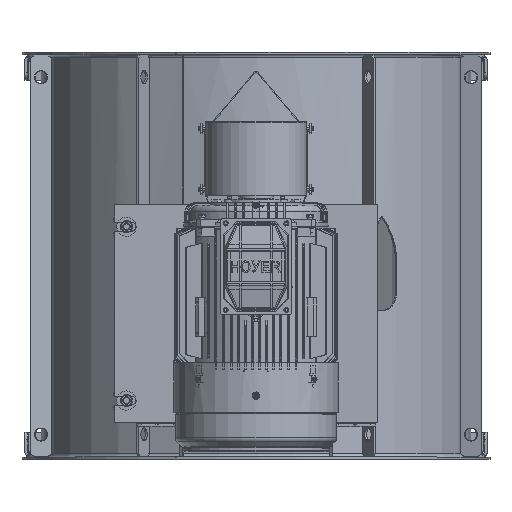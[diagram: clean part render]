
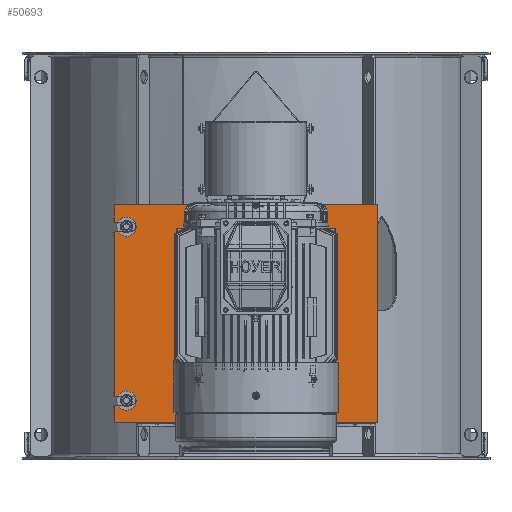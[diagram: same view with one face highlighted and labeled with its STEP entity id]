
A CAD part, top view. The second image highlights one B-rep face of the part: STEP entity #50693.
In plain terms, the highlighted planar face has unit normal (0, 0, 1) as drawn and (0, -1, 0) by its records, which use the part's own axes.
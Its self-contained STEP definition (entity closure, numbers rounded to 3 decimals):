
#1600=CIRCLE('',#53989,12.);
#1601=CIRCLE('',#53990,12.);
#1602=CIRCLE('',#53991,9.);
#1603=CIRCLE('',#53992,9.);
#1604=CIRCLE('',#53993,9.);
#1605=CIRCLE('',#53994,9.);
#1606=CIRCLE('',#53995,9.);
#1607=CIRCLE('',#53996,9.);
#1608=CIRCLE('',#53997,9.);
#1609=CIRCLE('',#53998,9.);
#6740=ORIENTED_EDGE('',*,*,#20775,.F.);
#6741=ORIENTED_EDGE('',*,*,#20776,.F.);
#6742=ORIENTED_EDGE('',*,*,#20777,.F.);
#6743=ORIENTED_EDGE('',*,*,#20778,.F.);
#6744=ORIENTED_EDGE('',*,*,#20779,.F.);
#6745=ORIENTED_EDGE('',*,*,#20780,.F.);
#6746=ORIENTED_EDGE('',*,*,#20781,.F.);
#6747=ORIENTED_EDGE('',*,*,#20782,.F.);
#6748=ORIENTED_EDGE('',*,*,#20783,.F.);
#6749=ORIENTED_EDGE('',*,*,#20784,.F.);
#6750=ORIENTED_EDGE('',*,*,#20785,.F.);
#6751=ORIENTED_EDGE('',*,*,#20786,.F.);
#6752=ORIENTED_EDGE('',*,*,#20787,.T.);
#6753=ORIENTED_EDGE('',*,*,#20788,.F.);
#6754=ORIENTED_EDGE('',*,*,#20789,.T.);
#6755=ORIENTED_EDGE('',*,*,#20790,.T.);
#6756=ORIENTED_EDGE('',*,*,#20791,.T.);
#6757=ORIENTED_EDGE('',*,*,#20792,.F.);
#6758=ORIENTED_EDGE('',*,*,#20793,.T.);
#6759=ORIENTED_EDGE('',*,*,#20794,.T.);
#6760=ORIENTED_EDGE('',*,*,#20795,.T.);
#6761=ORIENTED_EDGE('',*,*,#20796,.F.);
#6762=ORIENTED_EDGE('',*,*,#20797,.T.);
#6763=ORIENTED_EDGE('',*,*,#20798,.T.);
#6764=ORIENTED_EDGE('',*,*,#20799,.T.);
#6765=ORIENTED_EDGE('',*,*,#20800,.F.);
#6766=ORIENTED_EDGE('',*,*,#20801,.T.);
#6767=ORIENTED_EDGE('',*,*,#20802,.T.);
#20775=EDGE_CURVE('',#27892,#27893,#32636,.T.);
#20776=EDGE_CURVE('',#27894,#27892,#32637,.T.);
#20777=EDGE_CURVE('',#27895,#27894,#1600,.T.);
#20778=EDGE_CURVE('',#27896,#27895,#32638,.T.);
#20779=EDGE_CURVE('',#27897,#27896,#32639,.T.);
#20780=EDGE_CURVE('',#27898,#27897,#32640,.T.);
#20781=EDGE_CURVE('',#27899,#27898,#32641,.T.);
#20782=EDGE_CURVE('',#27900,#27899,#32642,.T.);
#20783=EDGE_CURVE('',#27901,#27900,#32643,.T.);
#20784=EDGE_CURVE('',#27902,#27901,#32644,.T.);
#20785=EDGE_CURVE('',#27903,#27902,#1601,.T.);
#20786=EDGE_CURVE('',#27893,#27903,#32645,.T.);
#20787=EDGE_CURVE('',#27904,#27905,#1602,.T.);
#20788=EDGE_CURVE('',#27906,#27905,#32646,.T.);
#20789=EDGE_CURVE('',#27906,#27907,#1603,.T.);
#20790=EDGE_CURVE('',#27907,#27904,#32647,.T.);
#20791=EDGE_CURVE('',#27908,#27909,#1604,.T.);
#20792=EDGE_CURVE('',#27910,#27909,#32648,.T.);
#20793=EDGE_CURVE('',#27910,#27911,#1605,.T.);
#20794=EDGE_CURVE('',#27911,#27908,#32649,.T.);
#20795=EDGE_CURVE('',#27912,#27913,#1606,.T.);
#20796=EDGE_CURVE('',#27914,#27913,#32650,.T.);
#20797=EDGE_CURVE('',#27914,#27915,#1607,.T.);
#20798=EDGE_CURVE('',#27915,#27912,#32651,.T.);
#20799=EDGE_CURVE('',#27916,#27917,#1608,.T.);
#20800=EDGE_CURVE('',#27918,#27917,#32652,.T.);
#20801=EDGE_CURVE('',#27918,#27919,#1609,.T.);
#20802=EDGE_CURVE('',#27919,#27916,#32653,.T.);
#27892=VERTEX_POINT('',#77730);
#27893=VERTEX_POINT('',#77731);
#27894=VERTEX_POINT('',#77733);
#27895=VERTEX_POINT('',#77735);
#27896=VERTEX_POINT('',#77737);
#27897=VERTEX_POINT('',#77739);
#27898=VERTEX_POINT('',#77741);
#27899=VERTEX_POINT('',#77743);
#27900=VERTEX_POINT('',#77745);
#27901=VERTEX_POINT('',#77747);
#27902=VERTEX_POINT('',#77749);
#27903=VERTEX_POINT('',#77751);
#27904=VERTEX_POINT('',#77754);
#27905=VERTEX_POINT('',#77755);
#27906=VERTEX_POINT('',#77757);
#27907=VERTEX_POINT('',#77759);
#27908=VERTEX_POINT('',#77762);
#27909=VERTEX_POINT('',#77763);
#27910=VERTEX_POINT('',#77765);
#27911=VERTEX_POINT('',#77767);
#27912=VERTEX_POINT('',#77770);
#27913=VERTEX_POINT('',#77771);
#27914=VERTEX_POINT('',#77773);
#27915=VERTEX_POINT('',#77775);
#27916=VERTEX_POINT('',#77778);
#27917=VERTEX_POINT('',#77779);
#27918=VERTEX_POINT('',#77781);
#27919=VERTEX_POINT('',#77783);
#32636=LINE('',#77729,#36160);
#32637=LINE('',#77732,#36161);
#32638=LINE('',#77736,#36162);
#32639=LINE('',#77738,#36163);
#32640=LINE('',#77740,#36164);
#32641=LINE('',#77742,#36165);
#32642=LINE('',#77744,#36166);
#32643=LINE('',#77746,#36167);
#32644=LINE('',#77748,#36168);
#32645=LINE('',#77752,#36169);
#32646=LINE('',#77756,#36170);
#32647=LINE('',#77760,#36171);
#32648=LINE('',#77764,#36172);
#32649=LINE('',#77768,#36173);
#32650=LINE('',#77772,#36174);
#32651=LINE('',#77776,#36175);
#32652=LINE('',#77780,#36176);
#32653=LINE('',#77784,#36177);
#36160=VECTOR('',#59823,1000.);
#36161=VECTOR('',#59824,1000.);
#36162=VECTOR('',#59827,1000.);
#36163=VECTOR('',#59828,1000.);
#36164=VECTOR('',#59829,1000.);
#36165=VECTOR('',#59830,1000.);
#36166=VECTOR('',#59831,1000.);
#36167=VECTOR('',#59832,1000.);
#36168=VECTOR('',#59833,1000.);
#36169=VECTOR('',#59836,1000.);
#36170=VECTOR('',#59839,1000.);
#36171=VECTOR('',#59842,1000.);
#36172=VECTOR('',#59845,1000.);
#36173=VECTOR('',#59848,1000.);
#36174=VECTOR('',#59851,1000.);
#36175=VECTOR('',#59854,1000.);
#36176=VECTOR('',#59857,1000.);
#36177=VECTOR('',#59860,1000.);
#39881=EDGE_LOOP('',(#6740,#6741,#6742,#6743,#6744,#6745,#6746,#6747,#6748,
#6749,#6750,#6751));
#39882=EDGE_LOOP('',(#6752,#6753,#6754,#6755));
#39883=EDGE_LOOP('',(#6756,#6757,#6758,#6759));
#39884=EDGE_LOOP('',(#6760,#6761,#6762,#6763));
#39885=EDGE_LOOP('',(#6764,#6765,#6766,#6767));
#43625=FACE_BOUND('',#39881,.T.);
#43626=FACE_BOUND('',#39882,.T.);
#43627=FACE_BOUND('',#39883,.T.);
#43628=FACE_BOUND('',#39884,.T.);
#43629=FACE_BOUND('',#39885,.T.);
#47082=PLANE('',#53988);
#50693=ADVANCED_FACE('',(#43625,#43626,#43627,#43628,#43629),#47082,.F.);
#53988=AXIS2_PLACEMENT_3D('',#77728,#59821,#59822);
#53989=AXIS2_PLACEMENT_3D('',#77734,#59825,#59826);
#53990=AXIS2_PLACEMENT_3D('',#77750,#59834,#59835);
#53991=AXIS2_PLACEMENT_3D('',#77753,#59837,#59838);
#53992=AXIS2_PLACEMENT_3D('',#77758,#59840,#59841);
#53993=AXIS2_PLACEMENT_3D('',#77761,#59843,#59844);
#53994=AXIS2_PLACEMENT_3D('',#77766,#59846,#59847);
#53995=AXIS2_PLACEMENT_3D('',#77769,#59849,#59850);
#53996=AXIS2_PLACEMENT_3D('',#77774,#59852,#59853);
#53997=AXIS2_PLACEMENT_3D('',#77777,#59855,#59856);
#53998=AXIS2_PLACEMENT_3D('',#77782,#59858,#59859);
#59821=DIRECTION('',(0.,1.,0.));
#59822=DIRECTION('',(0.,0.,1.));
#59823=DIRECTION('',(0.,0.,-1.));
#59824=DIRECTION('',(1.,0.,0.));
#59825=DIRECTION('',(0.,-1.,0.));
#59826=DIRECTION('',(1.,0.,0.));
#59827=DIRECTION('',(-1.,0.,0.));
#59828=DIRECTION('',(0.,0.,-1.));
#59829=DIRECTION('',(1.,0.,0.));
#59830=DIRECTION('',(0.,0.,1.));
#59831=DIRECTION('',(-1.,0.,0.));
#59832=DIRECTION('',(0.,0.,-1.));
#59833=DIRECTION('',(1.,0.,0.));
#59834=DIRECTION('',(0.,-1.,0.));
#59835=DIRECTION('',(1.,0.,0.));
#59836=DIRECTION('',(-1.,0.,0.));
#59837=DIRECTION('',(0.,1.,0.));
#59838=DIRECTION('',(1.,0.,0.));
#59839=DIRECTION('',(0.,0.,-1.));
#59840=DIRECTION('',(0.,1.,0.));
#59841=DIRECTION('',(-1.,0.,0.));
#59842=DIRECTION('',(0.,0.,-1.));
#59843=DIRECTION('',(0.,1.,0.));
#59844=DIRECTION('',(1.,0.,0.));
#59845=DIRECTION('',(0.,0.,-1.));
#59846=DIRECTION('',(0.,1.,0.));
#59847=DIRECTION('',(-1.,0.,0.));
#59848=DIRECTION('',(0.,0.,-1.));
#59849=DIRECTION('',(0.,1.,0.));
#59850=DIRECTION('',(1.,0.,0.));
#59851=DIRECTION('',(0.,0.,-1.));
#59852=DIRECTION('',(0.,1.,0.));
#59853=DIRECTION('',(-1.,0.,0.));
#59854=DIRECTION('',(0.,0.,-1.));
#59855=DIRECTION('',(0.,1.,0.));
#59856=DIRECTION('',(1.,0.,0.));
#59857=DIRECTION('',(0.,0.,-1.));
#59858=DIRECTION('',(0.,1.,0.));
#59859=DIRECTION('',(-1.,0.,0.));
#59860=DIRECTION('',(0.,0.,-1.));
#77728=CARTESIAN_POINT('',(0.,0.,0.));
#77729=CARTESIAN_POINT('',(355.,0.,295.));
#77730=CARTESIAN_POINT('',(355.,0.,223.));
#77731=CARTESIAN_POINT('',(355.,0.,-223.));
#77732=CARTESIAN_POINT('',(310.,0.,223.));
#77733=CARTESIAN_POINT('',(310.,0.,223.));
#77734=CARTESIAN_POINT('',(310.,0.,235.));
#77735=CARTESIAN_POINT('',(310.,0.,247.));
#77736=CARTESIAN_POINT('',(310.,0.,247.));
#77737=CARTESIAN_POINT('',(355.,0.,247.));
#77738=CARTESIAN_POINT('',(355.,0.,295.));
#77739=CARTESIAN_POINT('',(355.,0.,295.));
#77740=CARTESIAN_POINT('',(-355.,0.,295.));
#77741=CARTESIAN_POINT('',(-355.,0.,295.));
#77742=CARTESIAN_POINT('',(-355.,0.,-295.));
#77743=CARTESIAN_POINT('',(-355.,0.,-295.));
#77744=CARTESIAN_POINT('',(355.,0.,-295.));
#77745=CARTESIAN_POINT('',(355.,0.,-295.));
#77746=CARTESIAN_POINT('',(355.,0.,295.));
#77747=CARTESIAN_POINT('',(355.,0.,-247.));
#77748=CARTESIAN_POINT('',(310.,0.,-247.));
#77749=CARTESIAN_POINT('',(310.,0.,-247.));
#77750=CARTESIAN_POINT('',(310.,0.,-235.));
#77751=CARTESIAN_POINT('',(310.,0.,-223.));
#77752=CARTESIAN_POINT('',(310.,0.,-223.));
#77753=CARTESIAN_POINT('',(-205.,0.,113.5));
#77754=CARTESIAN_POINT('',(-196.,0.,113.5));
#77755=CARTESIAN_POINT('',(-214.,0.,113.5));
#77756=CARTESIAN_POINT('',(-214.,0.,138.5));
#77757=CARTESIAN_POINT('',(-214.,0.,138.5));
#77758=CARTESIAN_POINT('',(-205.,0.,138.5));
#77759=CARTESIAN_POINT('',(-196.,0.,138.5));
#77760=CARTESIAN_POINT('',(-196.,0.,138.5));
#77761=CARTESIAN_POINT('',(-205.,0.,-197.5));
#77762=CARTESIAN_POINT('',(-196.,0.,-197.5));
#77763=CARTESIAN_POINT('',(-214.,0.,-197.5));
#77764=CARTESIAN_POINT('',(-214.,0.,-172.5));
#77765=CARTESIAN_POINT('',(-214.,0.,-172.5));
#77766=CARTESIAN_POINT('',(-205.,0.,-172.5));
#77767=CARTESIAN_POINT('',(-196.,0.,-172.5));
#77768=CARTESIAN_POINT('',(-196.,0.,-172.5));
#77769=CARTESIAN_POINT('',(151.,0.,113.5));
#77770=CARTESIAN_POINT('',(160.,0.,113.5));
#77771=CARTESIAN_POINT('',(142.,0.,113.5));
#77772=CARTESIAN_POINT('',(142.,0.,138.5));
#77773=CARTESIAN_POINT('',(142.,0.,138.5));
#77774=CARTESIAN_POINT('',(151.,0.,138.5));
#77775=CARTESIAN_POINT('',(160.,0.,138.5));
#77776=CARTESIAN_POINT('',(160.,0.,138.5));
#77777=CARTESIAN_POINT('',(151.,0.,-197.5));
#77778=CARTESIAN_POINT('',(160.,0.,-197.5));
#77779=CARTESIAN_POINT('',(142.,0.,-197.5));
#77780=CARTESIAN_POINT('',(142.,0.,-172.5));
#77781=CARTESIAN_POINT('',(142.,0.,-172.5));
#77782=CARTESIAN_POINT('',(151.,0.,-172.5));
#77783=CARTESIAN_POINT('',(160.,0.,-172.5));
#77784=CARTESIAN_POINT('',(160.,0.,-172.5));
